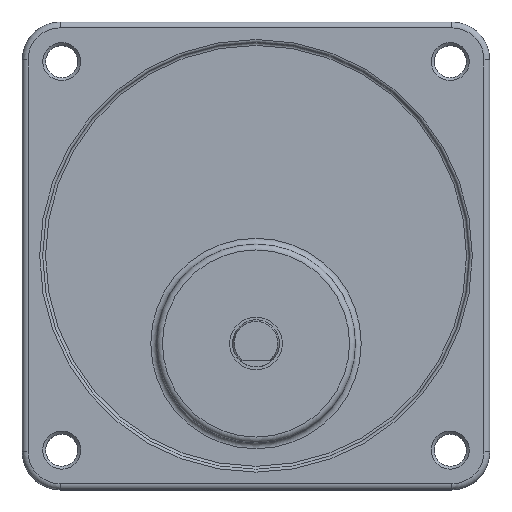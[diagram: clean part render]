
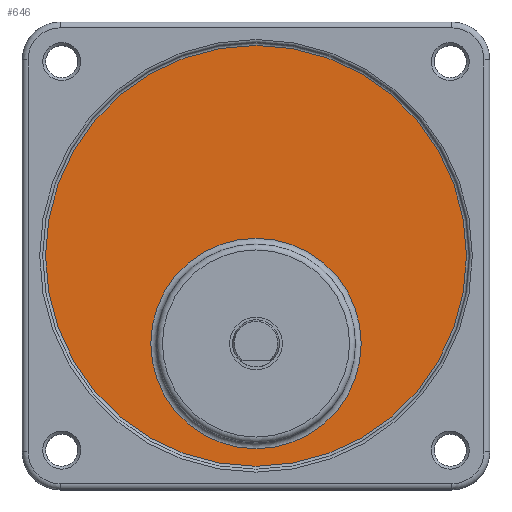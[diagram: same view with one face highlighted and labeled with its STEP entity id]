
A CAD part, top view. The second image highlights one B-rep face of the part: STEP entity #646.
In plain terms, the highlighted planar face has unit normal (0, 0, 1).
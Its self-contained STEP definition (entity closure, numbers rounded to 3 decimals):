
#595=CARTESIAN_POINT('',(58.,25.0,31.0));
#596=VERTEX_POINT('',#595);
#597=CARTESIAN_POINT('',(40.,25.0,31.0));
#598=DIRECTION('',(0.0,0.0,1.0));
#599=DIRECTION('',(-1.0,0.0,0.0));
#600=AXIS2_PLACEMENT_3D('',#597,#598,#599);
#601=CIRCLE('',#600,18.);
#602=EDGE_CURVE('',#596,#596,#601,.T.);
#627=CARTESIAN_POINT('',(40.,40.0,31.0));
#628=DIRECTION('',(0.0,0.0,-1.0));
#629=DIRECTION('',(-1.0,0.0,0.0));
#630=AXIS2_PLACEMENT_3D('',#627,#628,#629);
#631=PLANE('',#630);
#632=CARTESIAN_POINT('',(76.,40.,31.0));
#633=VERTEX_POINT('',#632);
#634=CARTESIAN_POINT('',(40.,40.0,31.0));
#635=DIRECTION('',(0.0,0.0,-1.0));
#636=DIRECTION('',(-1.0,0.0,0.0));
#637=AXIS2_PLACEMENT_3D('',#634,#635,#636);
#638=CIRCLE('',#637,36.);
#639=EDGE_CURVE('',#633,#633,#638,.T.);
#640=ORIENTED_EDGE('',*,*,#639,.F.);
#641=EDGE_LOOP('',(#640));
#642=FACE_OUTER_BOUND('',#641,.T.);
#643=ORIENTED_EDGE('',*,*,#602,.F.);
#644=EDGE_LOOP('',(#643));
#645=FACE_BOUND('',#644,.T.);
#646=ADVANCED_FACE('',(#642,#645),#631,.F.);
